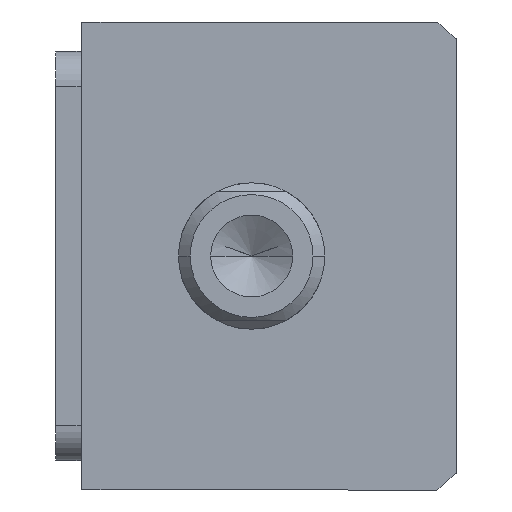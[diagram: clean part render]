
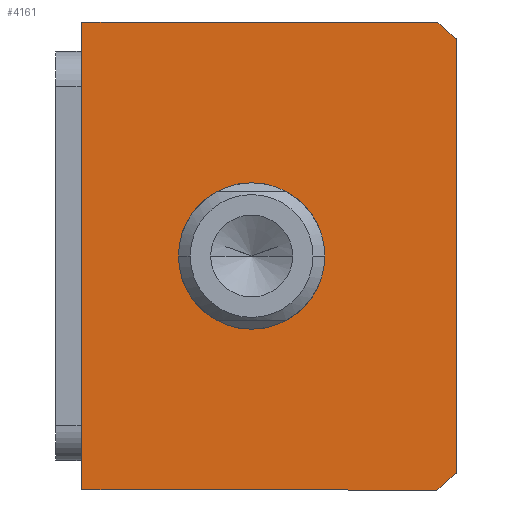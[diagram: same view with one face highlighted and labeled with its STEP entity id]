
A CAD part, front view. The second image highlights one B-rep face of the part: STEP entity #4161.
In plain terms, the highlighted planar face has unit normal (0, -1, 0) as drawn and (0, 0, -1) by its records, which use the part's own axes.
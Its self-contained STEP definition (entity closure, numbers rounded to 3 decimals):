
#294 = CARTESIAN_POINT ( 'NONE',  ( 0., 3., 0. ) ) ;
#595 = ORIENTED_EDGE ( 'NONE', *, *, #9392, .F. ) ;
#820 = ORIENTED_EDGE ( 'NONE', *, *, #5232, .F. ) ;
#930 = AXIS2_PLACEMENT_3D ( 'NONE', #7004, #2073, #7843 ) ;
#933 = ORIENTED_EDGE ( 'NONE', *, *, #8150, .F. ) ;
#959 = ORIENTED_EDGE ( 'NONE', *, *, #6709, .F. ) ;
#1105 = DIRECTION ( 'NONE',  ( 1., 0., 0. ) ) ;
#1167 = VERTEX_POINT ( 'NONE', #2191 ) ;
#1383 = VERTEX_POINT ( 'NONE', #4234 ) ;
#1398 = CARTESIAN_POINT ( 'NONE',  ( 37.094, -32., 0. ) ) ;
#1479 = EDGE_LOOP ( 'NONE', ( #5771, #4287 ) ) ;
#1655 = CARTESIAN_POINT ( 'NONE',  ( -40., 32., 0. ) ) ;
#1666 = EDGE_CURVE ( 'NONE', #5761, #1383, #1743, .T. ) ;
#1743 = LINE ( 'NONE', #4678, #6113 ) ;
#1754 = VECTOR ( 'NONE', #6263, 1000. ) ;
#1847 = CIRCLE ( 'NONE', #10115, 12.5 ) ;
#1865 = EDGE_CURVE ( 'NONE', #1167, #3551, #2875, .T. ) ;
#2005 = LINE ( 'NONE', #10407, #1754 ) ;
#2069 = CARTESIAN_POINT ( 'NONE',  ( 0., 3., 0. ) ) ;
#2073 = DIRECTION ( 'NONE',  ( 0., 0., 1. ) ) ;
#2137 = CARTESIAN_POINT ( 'NONE',  ( 0., 0., 0. ) ) ;
#2143 = LINE ( 'NONE', #1655, #10712 ) ;
#2191 = CARTESIAN_POINT ( 'NONE',  ( -37.094, -32., 0. ) ) ;
#2691 = AXIS2_PLACEMENT_3D ( 'NONE', #2137, #9587, #4619 ) ;
#2730 = CIRCLE ( 'NONE', #8418, 51. ) ;
#2875 = LINE ( 'NONE', #3196, #8979 ) ;
#2880 = DIRECTION ( 'NONE',  ( 1., 0., 0. ) ) ;
#3196 = CARTESIAN_POINT ( 'NONE',  ( -40., -32., 0. ) ) ;
#3551 = VERTEX_POINT ( 'NONE', #1398 ) ;
#3683 = CIRCLE ( 'NONE', #8279, 12.5 ) ;
#3782 = PLANE ( 'NONE',  #2691 ) ;
#4127 = EDGE_CURVE ( 'NONE', #10449, #7989, #1847, .T. ) ;
#4161 = ADVANCED_FACE ( 'NONE', ( #7898, #10377 ), #3782, .F. ) ;
#4234 = CARTESIAN_POINT ( 'NONE',  ( 40., 32., 0. ) ) ;
#4287 = ORIENTED_EDGE ( 'NONE', *, *, #7795, .T. ) ;
#4364 = ORIENTED_EDGE ( 'NONE', *, *, #1865, .F. ) ;
#4410 = ORIENTED_EDGE ( 'NONE', *, *, #1666, .F. ) ;
#4619 = DIRECTION ( 'NONE',  ( 1., 0., 0. ) ) ;
#4678 = CARTESIAN_POINT ( 'NONE',  ( 40., 32., 0. ) ) ;
#4854 = CARTESIAN_POINT ( 'NONE',  ( 0., 3., 0. ) ) ;
#5012 = CARTESIAN_POINT ( 'NONE',  ( 40., -28.639, 0. ) ) ;
#5040 = CIRCLE ( 'NONE', #930, 51. ) ;
#5232 = EDGE_CURVE ( 'NONE', #3551, #5761, #2730, .T. ) ;
#5510 = VERTEX_POINT ( 'NONE', #6583 ) ;
#5652 = DIRECTION ( 'NONE',  ( 1., 0., 0. ) ) ;
#5680 = DIRECTION ( 'NONE',  ( 1., 0., 0. ) ) ;
#5761 = VERTEX_POINT ( 'NONE', #5012 ) ;
#5771 = ORIENTED_EDGE ( 'NONE', *, *, #4127, .T. ) ;
#6051 = DIRECTION ( 'NONE',  ( 0., 0., 1. ) ) ;
#6113 = VECTOR ( 'NONE', #9648, 1000. ) ;
#6263 = DIRECTION ( 'NONE',  ( 0., -1., 0. ) ) ;
#6306 = EDGE_LOOP ( 'NONE', ( #959, #595, #933, #4410, #820, #4364 ) ) ;
#6583 = CARTESIAN_POINT ( 'NONE',  ( -40., 32., 0. ) ) ;
#6604 = DIRECTION ( 'NONE',  ( -1., 0., 0. ) ) ;
#6709 = EDGE_CURVE ( 'NONE', #8191, #1167, #5040, .T. ) ;
#7004 = CARTESIAN_POINT ( 'NONE',  ( 0., 3., 0. ) ) ;
#7412 = CARTESIAN_POINT ( 'NONE',  ( -40., -28.639, 0. ) ) ;
#7795 = EDGE_CURVE ( 'NONE', #7989, #10449, #3683, .T. ) ;
#7840 = DIRECTION ( 'NONE',  ( 0., 0., 1. ) ) ;
#7843 = DIRECTION ( 'NONE',  ( 1., 0., 0. ) ) ;
#7851 = CARTESIAN_POINT ( 'NONE',  ( -12.5, 3., 0. ) ) ;
#7898 = FACE_BOUND ( 'NONE', #1479, .T. ) ;
#7989 = VERTEX_POINT ( 'NONE', #7851 ) ;
#8150 = EDGE_CURVE ( 'NONE', #1383, #5510, #2143, .T. ) ;
#8191 = VERTEX_POINT ( 'NONE', #7412 ) ;
#8279 = AXIS2_PLACEMENT_3D ( 'NONE', #294, #6051, #1105 ) ;
#8418 = AXIS2_PLACEMENT_3D ( 'NONE', #4854, #10673, #5680 ) ;
#8959 = CARTESIAN_POINT ( 'NONE',  ( 12.5, 3., 0. ) ) ;
#8979 = VECTOR ( 'NONE', #5652, 1000. ) ;
#9392 = EDGE_CURVE ( 'NONE', #5510, #8191, #2005, .T. ) ;
#9587 = DIRECTION ( 'NONE',  ( 0., 0., 1. ) ) ;
#9648 = DIRECTION ( 'NONE',  ( 0., 1., 0. ) ) ;
#10115 = AXIS2_PLACEMENT_3D ( 'NONE', #2069, #7840, #2880 ) ;
#10377 = FACE_OUTER_BOUND ( 'NONE', #6306, .T. ) ;
#10407 = CARTESIAN_POINT ( 'NONE',  ( -40., 32., 0. ) ) ;
#10449 = VERTEX_POINT ( 'NONE', #8959 ) ;
#10673 = DIRECTION ( 'NONE',  ( 0., 0., 1. ) ) ;
#10712 = VECTOR ( 'NONE', #6604, 1000. ) ;
